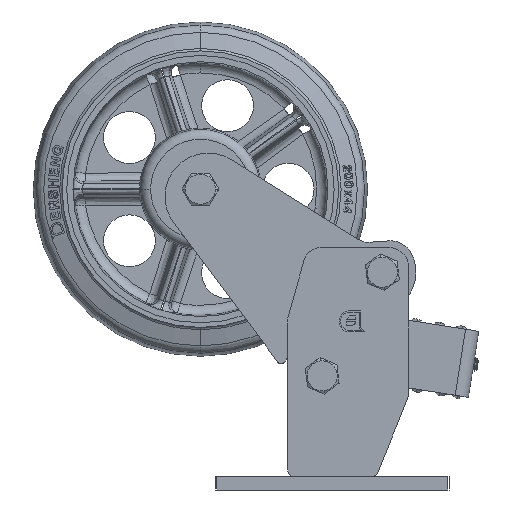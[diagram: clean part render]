
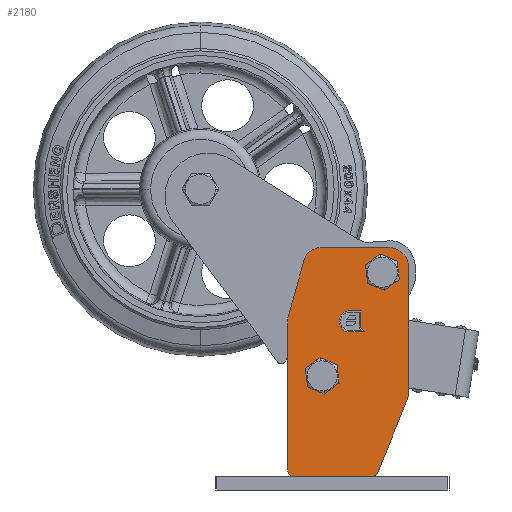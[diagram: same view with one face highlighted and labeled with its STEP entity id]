
A CAD part, left-side view. The second image highlights one B-rep face of the part: STEP entity #2180.
In plain terms, the highlighted planar face has unit normal (-1, 0, 0).
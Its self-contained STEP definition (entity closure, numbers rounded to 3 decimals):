
#1674=CARTESIAN_POINT('',(-46.,6.024,68.3));
#1675=DIRECTION('',(-1.,0.,0.));
#1676=DIRECTION('',(0.,-1.,0.));
#1677=AXIS2_PLACEMENT_3D('',#1674,#1675,#1676);
#1679=CARTESIAN_POINT('',(-46.,6.024,68.3));
#1680=DIRECTION('',(-1.,0.,0.));
#1681=DIRECTION('',(0.,1.,0.));
#1682=AXIS2_PLACEMENT_3D('',#1679,#1680,#1681);
#1684=CARTESIAN_POINT('',(-46.,-29.976,130.3));
#1685=DIRECTION('',(-1.,0.,0.));
#1686=DIRECTION('',(0.,-1.,0.));
#1687=AXIS2_PLACEMENT_3D('',#1684,#1685,#1686);
#1689=CARTESIAN_POINT('',(-46.,-29.976,130.3));
#1690=DIRECTION('',(-1.,0.,0.));
#1691=DIRECTION('',(0.,1.,0.));
#1692=AXIS2_PLACEMENT_3D('',#1689,#1690,#1691);
#1694=CARTESIAN_POINT('',(-46.,-23.573,12.));
#1695=DIRECTION('',(1.,0.,0.));
#1696=DIRECTION('',(0.,-0.928,-0.373));
#1697=AXIS2_PLACEMENT_3D('',#1694,#1695,#1696);
#1699=DIRECTION('',(0.,1.,0.));
#1700=VECTOR('',#1699,46.297);
#1701=CARTESIAN_POINT('',(-46.,-23.573,8.));
#1702=LINE('',#1701,#1700);
#1703=CARTESIAN_POINT('',(-46.,22.724,12.));
#1704=DIRECTION('',(1.,0.,0.));
#1705=DIRECTION('',(0.,0.,-1.));
#1706=AXIS2_PLACEMENT_3D('',#1703,#1704,#1705);
#1708=DIRECTION('',(0.,0.,-1.));
#1709=VECTOR('',#1708,89.115);
#1710=CARTESIAN_POINT('',(-46.,26.724,101.115));
#1711=LINE('',#1710,#1709);
#1712=CARTESIAN_POINT('',(-46.,16.724,101.115));
#1713=DIRECTION('',(-1.,0.,0.));
#1714=DIRECTION('',(0.,0.962,0.272));
#1715=AXIS2_PLACEMENT_3D('',#1712,#1713,#1714);
#1717=DIRECTION('',(0.,0.272,-0.962));
#1718=VECTOR('',#1717,35.209);
#1719=CARTESIAN_POINT('',(-46.,16.78,137.717));
#1720=LINE('',#1719,#1718);
#1721=CARTESIAN_POINT('',(-46.,7.157,135.));
#1722=DIRECTION('',(-1.,0.,0.));
#1723=DIRECTION('',(0.,0.,1.));
#1724=AXIS2_PLACEMENT_3D('',#1721,#1722,#1723);
#1726=DIRECTION('',(0.,1.,0.));
#1727=VECTOR('',#1726,40.933);
#1728=CARTESIAN_POINT('',(-46.,-33.776,145.));
#1729=LINE('',#1728,#1727);
#1730=CARTESIAN_POINT('',(-46.,-33.776,133.));
#1731=DIRECTION('',(-1.,0.,0.));
#1732=DIRECTION('',(0.,-1.,0.));
#1733=AXIS2_PLACEMENT_3D('',#1730,#1731,#1732);
#1735=DIRECTION('',(0.,0.,1.));
#1736=VECTOR('',#1735,74.565);
#1737=CARTESIAN_POINT('',(-46.,-45.776,58.435));
#1738=LINE('',#1737,#1736);
#1739=CARTESIAN_POINT('',(-46.,-35.776,58.435));
#1740=DIRECTION('',(-1.,0.,0.));
#1741=DIRECTION('',(0.,-0.928,-0.373));
#1742=AXIS2_PLACEMENT_3D('',#1739,#1740,#1741);
#1744=DIRECTION('',(0.,-0.373,0.928));
#1745=VECTOR('',#1744,47.635);
#1746=CARTESIAN_POINT('',(-46.,-27.284,10.508));
#1747=LINE('',#1746,#1745);
#1765=DIRECTION('',(0.,0.67,0.743));
#1766=VECTOR('',#1765,3.474);
#1767=CARTESIAN_POINT('',(-46.,-19.303,94.6));
#1768=LINE('',#1767,#1766);
#1769=DIRECTION('',(0.,0.,1.));
#1770=VECTOR('',#1769,9.92);
#1771=CARTESIAN_POINT('',(-46.,-16.976,97.18));
#1772=LINE('',#1771,#1770);
#1773=DIRECTION('',(0.,1.,0.));
#1774=VECTOR('',#1773,7.18);
#1775=CARTESIAN_POINT('',(-46.,-16.976,107.1));
#1776=LINE('',#1775,#1774);
#1777=CARTESIAN_POINT('',(-46.,-10.296,100.85));
#1778=DIRECTION('',(-1.,0.,0.));
#1779=DIRECTION('',(0.,0.08,0.997));
#1780=AXIS2_PLACEMENT_3D('',#1777,#1778,#1779);
#1782=DIRECTION('',(0.,-1.,0.));
#1783=VECTOR('',#1782,9.507);
#1784=CARTESIAN_POINT('',(-46.,-9.796,94.6));
#1785=LINE('',#1784,#1783);
#1946=CARTESIAN_POINT('',(-46.,12.024,68.3));
#1947=CARTESIAN_POINT('',(-46.,0.024,68.3));
#1948=VERTEX_POINT('',#1946);
#1949=VERTEX_POINT('',#1947);
#1950=CARTESIAN_POINT('',(-46.,-23.976,130.3));
#1951=CARTESIAN_POINT('',(-46.,-35.976,130.3));
#1952=VERTEX_POINT('',#1950);
#1953=VERTEX_POINT('',#1951);
#1958=CARTESIAN_POINT('',(-46.,-23.573,8.));
#1959=CARTESIAN_POINT('',(-46.,-27.284,10.508));
#1960=VERTEX_POINT('',#1958);
#1961=VERTEX_POINT('',#1959);
#1966=CARTESIAN_POINT('',(-46.,26.724,12.));
#1967=VERTEX_POINT('',#1966);
#1968=CARTESIAN_POINT('',(-46.,22.724,8.));
#1969=VERTEX_POINT('',#1968);
#1974=CARTESIAN_POINT('',(-46.,-45.054,54.705));
#1975=VERTEX_POINT('',#1974);
#1976=CARTESIAN_POINT('',(-46.,-45.776,58.435));
#1977=VERTEX_POINT('',#1976);
#1982=CARTESIAN_POINT('',(-46.,26.348,103.833));
#1983=VERTEX_POINT('',#1982);
#1984=CARTESIAN_POINT('',(-46.,26.724,101.115));
#1985=VERTEX_POINT('',#1984);
#1990=CARTESIAN_POINT('',(-46.,7.157,145.));
#1991=VERTEX_POINT('',#1990);
#1992=CARTESIAN_POINT('',(-46.,16.78,137.717));
#1993=VERTEX_POINT('',#1992);
#1998=CARTESIAN_POINT('',(-46.,-45.776,133.));
#1999=VERTEX_POINT('',#1998);
#2000=CARTESIAN_POINT('',(-46.,-33.776,145.));
#2001=VERTEX_POINT('',#2000);
#2046=CARTESIAN_POINT('',(-46.,-19.303,94.6));
#2047=CARTESIAN_POINT('',(-46.,-16.976,97.18));
#2048=VERTEX_POINT('',#2046);
#2049=VERTEX_POINT('',#2047);
#2050=CARTESIAN_POINT('',(-46.,-16.976,107.1));
#2051=VERTEX_POINT('',#2050);
#2052=CARTESIAN_POINT('',(-46.,-9.796,107.1));
#2053=VERTEX_POINT('',#2052);
#2054=CARTESIAN_POINT('',(-46.,-9.796,94.6));
#2055=VERTEX_POINT('',#2054);
#2125=CARTESIAN_POINT('',(-46.,-29.976,130.3));
#2126=DIRECTION('',(-1.,0.,0.));
#2127=DIRECTION('',(0.,1.,0.));
#2128=AXIS2_PLACEMENT_3D('',#2125,#2126,#2127);
#2129=PLANE('',#2128);
#2131=ORIENTED_EDGE('',*,*,#2130,.T.);
#2133=ORIENTED_EDGE('',*,*,#2132,.T.);
#2135=ORIENTED_EDGE('',*,*,#2134,.T.);
#2137=ORIENTED_EDGE('',*,*,#2136,.F.);
#2139=ORIENTED_EDGE('',*,*,#2138,.F.);
#2141=ORIENTED_EDGE('',*,*,#2140,.F.);
#2143=ORIENTED_EDGE('',*,*,#2142,.F.);
#2145=ORIENTED_EDGE('',*,*,#2144,.F.);
#2147=ORIENTED_EDGE('',*,*,#2146,.F.);
#2149=ORIENTED_EDGE('',*,*,#2148,.F.);
#2151=ORIENTED_EDGE('',*,*,#2150,.F.);
#2153=ORIENTED_EDGE('',*,*,#2152,.F.);
#2154=EDGE_LOOP('',(#2131,#2133,#2135,#2137,#2139,#2141,#2143,#2145,#2147,#2149,
#2151,#2153));
#2155=FACE_OUTER_BOUND('',#2154,.F.);
#2157=ORIENTED_EDGE('',*,*,#2156,.T.);
#2159=ORIENTED_EDGE('',*,*,#2158,.T.);
#2160=EDGE_LOOP('',(#2157,#2159));
#2161=FACE_BOUND('',#2160,.F.);
#2163=ORIENTED_EDGE('',*,*,#2162,.T.);
#2165=ORIENTED_EDGE('',*,*,#2164,.T.);
#2166=EDGE_LOOP('',(#2163,#2165));
#2167=FACE_BOUND('',#2166,.F.);
#2169=ORIENTED_EDGE('',*,*,#2168,.T.);
#2171=ORIENTED_EDGE('',*,*,#2170,.T.);
#2173=ORIENTED_EDGE('',*,*,#2172,.T.);
#2175=ORIENTED_EDGE('',*,*,#2174,.T.);
#2177=ORIENTED_EDGE('',*,*,#2176,.T.);
#2178=EDGE_LOOP('',(#2169,#2171,#2173,#2175,#2177));
#2179=FACE_BOUND('',#2178,.F.);
#1678=CIRCLE('',#1677,6.);
#1683=CIRCLE('',#1682,6.);
#1688=CIRCLE('',#1687,6.);
#1693=CIRCLE('',#1692,6.);
#1698=CIRCLE('',#1697,4.);
#1707=CIRCLE('',#1706,4.);
#1716=CIRCLE('',#1715,10.);
#1725=CIRCLE('',#1724,10.);
#1734=CIRCLE('',#1733,12.);
#1743=CIRCLE('',#1742,10.);
#1781=CIRCLE('',#1780,6.27);
#2130=EDGE_CURVE('',#1961,#1960,#1698,.T.);
#2132=EDGE_CURVE('',#1960,#1969,#1702,.T.);
#2134=EDGE_CURVE('',#1969,#1967,#1707,.T.);
#2136=EDGE_CURVE('',#1985,#1967,#1711,.T.);
#2138=EDGE_CURVE('',#1983,#1985,#1716,.T.);
#2140=EDGE_CURVE('',#1993,#1983,#1720,.T.);
#2142=EDGE_CURVE('',#1991,#1993,#1725,.T.);
#2144=EDGE_CURVE('',#2001,#1991,#1729,.T.);
#2146=EDGE_CURVE('',#1999,#2001,#1734,.T.);
#2148=EDGE_CURVE('',#1977,#1999,#1738,.T.);
#2150=EDGE_CURVE('',#1975,#1977,#1743,.T.);
#2152=EDGE_CURVE('',#1961,#1975,#1747,.T.);
#2156=EDGE_CURVE('',#1949,#1948,#1678,.T.);
#2158=EDGE_CURVE('',#1948,#1949,#1683,.T.);
#2162=EDGE_CURVE('',#1953,#1952,#1688,.T.);
#2164=EDGE_CURVE('',#1952,#1953,#1693,.T.);
#2168=EDGE_CURVE('',#2048,#2049,#1768,.T.);
#2170=EDGE_CURVE('',#2049,#2051,#1772,.T.);
#2172=EDGE_CURVE('',#2051,#2053,#1776,.T.);
#2174=EDGE_CURVE('',#2053,#2055,#1781,.T.);
#2176=EDGE_CURVE('',#2055,#2048,#1785,.T.);
#2180=ADVANCED_FACE('',(#2155,#2161,#2167,#2179),#2129,.T.);
